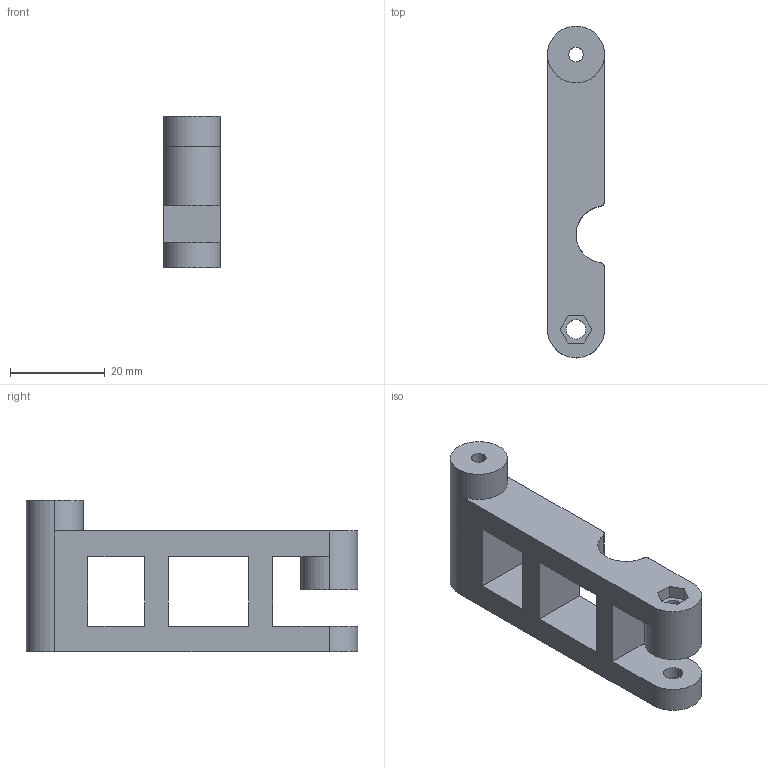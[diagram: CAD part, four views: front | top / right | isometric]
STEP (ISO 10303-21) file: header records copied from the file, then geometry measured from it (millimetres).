
FILE_DESCRIPTION(('Open CASCADE Model'),'2;1');
FILE_NAME('right-outer-link.step','2026-11-14T14:31:49',('Author'),( 'Open CASCADE'),'Open CASCADE STEP processor 8.0','Open CASCADE 8.0' ,'Unknown');
FILE_SCHEMA(('AP242_MANAGED_MODEL_BASED_3D_ENGINEERING_MIM_LF {1 0 10303 442 1 1 4 }' ));
Length unit declared in the file: millimetre
Products named in the file (1): Right Outer Link
Bounding box: 12 x 70 x 32 mm (x, y, z)
Volume: 12746 mm3; surface area: 6882.6 mm2
Topology: 1 solids, 1 shells, 43 faces, 116 edges, 76 vertices
Faces by surface type: plane 26, cylinder 17
Entity records: 2964 total; most frequent: CARTESIAN_POINT 612, DIRECTION 448, LINE 276, VECTOR 276, ORIENTED_EDGE 232, PCURVE 232, DEFINITIONAL_REPRESENTATION 232, EDGE_CURVE 116
